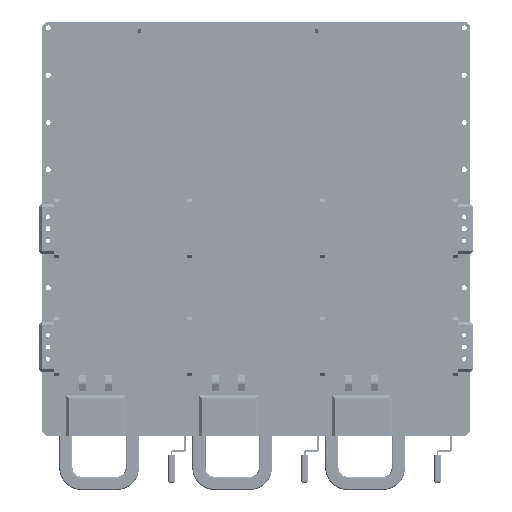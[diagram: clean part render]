
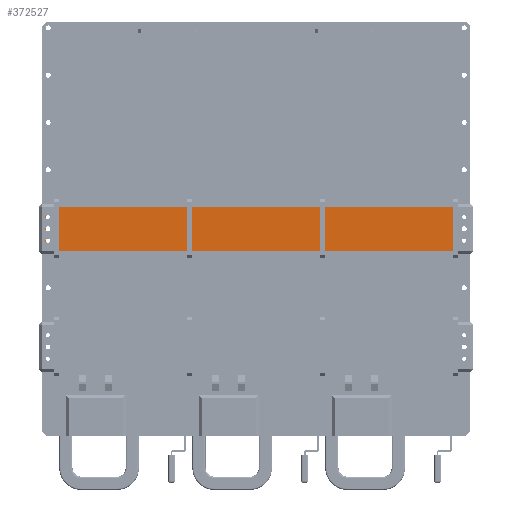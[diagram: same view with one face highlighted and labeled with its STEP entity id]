
A CAD part, top view. The second image highlights one B-rep face of the part: STEP entity #372527.
In plain terms, the highlighted planar face has unit normal (0, 0, 1).
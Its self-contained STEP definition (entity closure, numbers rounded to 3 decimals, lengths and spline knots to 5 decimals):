
#9465=CIRCLE('',#420892,0.00175);
#9466=CIRCLE('',#420893,0.00175);
#9467=CIRCLE('',#420894,0.00175);
#9468=CIRCLE('',#420895,0.00175);
#9469=CIRCLE('',#420896,0.00175);
#9470=CIRCLE('',#420897,0.00175);
#26141=ORIENTED_EDGE('',*,*,#133853,.F.);
#26142=ORIENTED_EDGE('',*,*,#133854,.F.);
#26143=ORIENTED_EDGE('',*,*,#133855,.F.);
#26144=ORIENTED_EDGE('',*,*,#133856,.F.);
#26145=ORIENTED_EDGE('',*,*,#133857,.F.);
#26146=ORIENTED_EDGE('',*,*,#133858,.F.);
#26147=ORIENTED_EDGE('',*,*,#133852,.F.);
#26148=ORIENTED_EDGE('',*,*,#133859,.F.);
#26149=ORIENTED_EDGE('',*,*,#133849,.T.);
#26150=ORIENTED_EDGE('',*,*,#133847,.T.);
#133847=EDGE_CURVE('',#188390,#188389,#226293,.T.);
#133849=EDGE_CURVE('',#188391,#188390,#226295,.T.);
#133852=EDGE_CURVE('',#188392,#188389,#226298,.T.);
#133853=EDGE_CURVE('',#188393,#188393,#9465,.T.);
#133854=EDGE_CURVE('',#188394,#188394,#9466,.T.);
#133855=EDGE_CURVE('',#188395,#188395,#9467,.T.);
#133856=EDGE_CURVE('',#188396,#188396,#9468,.T.);
#133857=EDGE_CURVE('',#188397,#188397,#9469,.T.);
#133858=EDGE_CURVE('',#188398,#188398,#9470,.T.);
#133859=EDGE_CURVE('',#188391,#188392,#226299,.T.);
#188389=VERTEX_POINT('',#556078);
#188390=VERTEX_POINT('',#556080);
#188391=VERTEX_POINT('',#556084);
#188392=VERTEX_POINT('',#556088);
#188393=VERTEX_POINT('',#556092);
#188394=VERTEX_POINT('',#556094);
#188395=VERTEX_POINT('',#556096);
#188396=VERTEX_POINT('',#556098);
#188397=VERTEX_POINT('',#556100);
#188398=VERTEX_POINT('',#556102);
#226293=LINE('',#556079,#269808);
#226295=LINE('',#556083,#269810);
#226298=LINE('',#556089,#269813);
#226299=LINE('',#556103,#269814);
#269808=VECTOR('',#454819,1.);
#269810=VECTOR('',#454823,1.);
#269813=VECTOR('',#454828,1.);
#269814=VECTOR('',#454843,1.);
#311608=EDGE_LOOP('',(#26141));
#311609=EDGE_LOOP('',(#26142));
#311610=EDGE_LOOP('',(#26143));
#311611=EDGE_LOOP('',(#26144));
#311612=EDGE_LOOP('',(#26145));
#311613=EDGE_LOOP('',(#26146));
#311614=EDGE_LOOP('',(#26147,#26148,#26149,#26150));
#334866=FACE_BOUND('',#311608,.T.);
#334867=FACE_BOUND('',#311609,.T.);
#334868=FACE_BOUND('',#311610,.T.);
#334869=FACE_BOUND('',#311611,.T.);
#334870=FACE_BOUND('',#311612,.T.);
#334871=FACE_BOUND('',#311613,.T.);
#334872=FACE_BOUND('',#311614,.T.);
#357387=PLANE('',#420891);
#372527=ADVANCED_FACE('',(#334866,#334867,#334868,#334869,#334870,#334871,
#334872),#357387,.F.);
#420891=AXIS2_PLACEMENT_3D('',#556090,#454829,#454830);
#420892=AXIS2_PLACEMENT_3D('',#556091,#454831,#454832);
#420893=AXIS2_PLACEMENT_3D('',#556093,#454833,#454834);
#420894=AXIS2_PLACEMENT_3D('',#556095,#454835,#454836);
#420895=AXIS2_PLACEMENT_3D('',#556097,#454837,#454838);
#420896=AXIS2_PLACEMENT_3D('',#556099,#454839,#454840);
#420897=AXIS2_PLACEMENT_3D('',#556101,#454841,#454842);
#454819=DIRECTION('',(0.,-1.,0.));
#454823=DIRECTION('',(-1.,0.,0.));
#454828=DIRECTION('',(-1.,0.,0.));
#454829=DIRECTION('',(0.,0.,-1.));
#454830=DIRECTION('',(-1.,0.,0.));
#454831=DIRECTION('',(0.,0.,1.));
#454832=DIRECTION('',(0.995,-0.096,0.));
#454833=DIRECTION('',(0.,0.,1.));
#454834=DIRECTION('',(0.995,-0.096,0.));
#454835=DIRECTION('',(0.,0.,1.));
#454836=DIRECTION('',(1.,0.003,0.));
#454837=DIRECTION('',(0.,0.,1.));
#454838=DIRECTION('',(1.,0.003,0.));
#454839=DIRECTION('',(0.,0.,1.));
#454840=DIRECTION('',(0.995,-0.096,0.));
#454841=DIRECTION('',(0.,0.,1.));
#454842=DIRECTION('',(1.,0.003,0.));
#454843=DIRECTION('',(0.,-1.,0.));
#556078=CARTESIAN_POINT('',(-0.145,-0.114,0.04451));
#556079=CARTESIAN_POINT('',(-0.145,-0.099,0.04451));
#556080=CARTESIAN_POINT('',(-0.145,-0.084,0.04451));
#556083=CARTESIAN_POINT('',(0.145,-0.084,0.04451));
#556084=CARTESIAN_POINT('',(0.145,-0.084,0.04451));
#556088=CARTESIAN_POINT('',(0.145,-0.114,0.04451));
#556089=CARTESIAN_POINT('',(0.145,-0.114,0.04451));
#556090=CARTESIAN_POINT('',(0.145,-0.099,0.04451));
#556091=CARTESIAN_POINT('',(0.14073,-0.099,0.04451));
#556092=CARTESIAN_POINT('',(0.14247,-0.09917,0.04451));
#556093=CARTESIAN_POINT('',(0.14073,-0.091,0.04451));
#556094=CARTESIAN_POINT('',(0.14247,-0.09117,0.04451));
#556095=CARTESIAN_POINT('',(-0.14093,-0.091,0.04451));
#556096=CARTESIAN_POINT('',(-0.13918,-0.091,0.04451));
#556097=CARTESIAN_POINT('',(-0.14093,-0.107,0.04451));
#556098=CARTESIAN_POINT('',(-0.13918,-0.107,0.04451));
#556099=CARTESIAN_POINT('',(0.14073,-0.107,0.04451));
#556100=CARTESIAN_POINT('',(0.14247,-0.10717,0.04451));
#556101=CARTESIAN_POINT('',(-0.14093,-0.099,0.04451));
#556102=CARTESIAN_POINT('',(-0.13918,-0.099,0.04451));
#556103=CARTESIAN_POINT('',(0.145,-0.099,0.04451));
